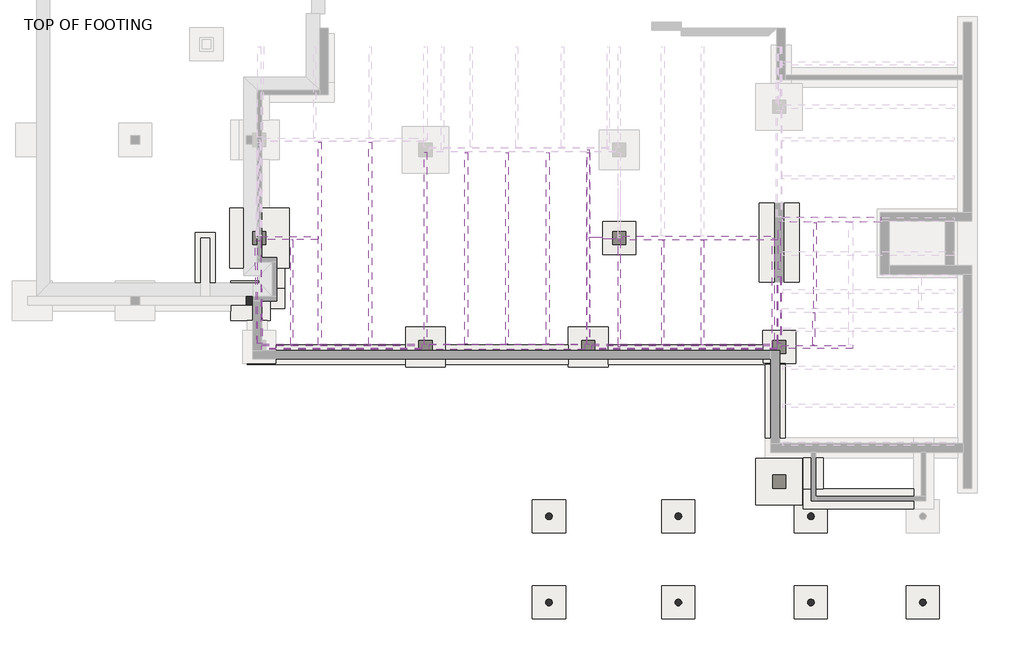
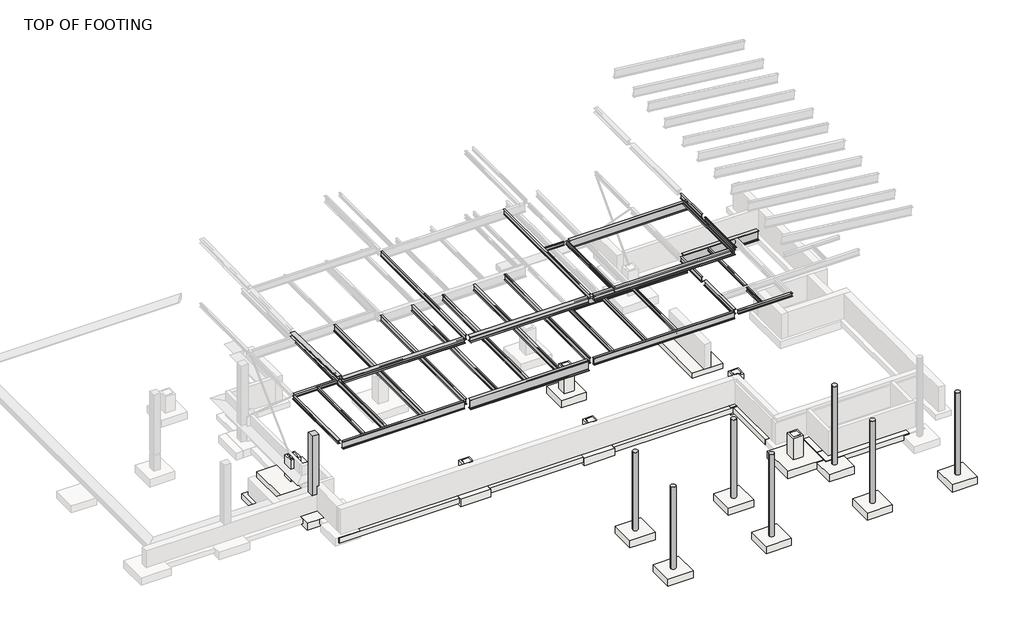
# One storey, part 2 of 4: 35 beams, 14 slabs, 8 columns, 8 footings.
"""IFC4 building model written with IfcOpenShell, lengths in millimetres."""

from ifc_helpers import new_model, si_unit, point, frame, frame_2d, origin, place, context, project, spatial, polyline, circle_curve, trimmed, segment, composite_curve, outline, extrude, faceted_brep, transform, mapped, element, save
from components import w_wide_flange_w10x12_ebacd2cb, w_wide_flange_w10x12_1bd4f99f, w_wide_flange_w10x49_96518129, w_wide_flange_w10x49_8d358260, w_wide_flange_w12x16_59da3857, w_wide_flange_w12x16_ddd03c39, w_wide_flange_w12x19_d63bb9e0, w_wide_flange_w12x30_b48d1e93, w_wide_flange_w12x53_96ffc1ec, w_wide_flange_w14x22_2e51511a, w_wide_flange_w14x22_2ac3afcd, w_wide_flange_w14x22_ec72dc32, w_wide_flange_w14x22_4ceff1ba, w_wide_flange_w14x61_86819d2a, w_wide_flange_w16x26_70125ba5, w_wide_flange_w16x31_951fd6ce, w_wide_flange_w18x46_b0132ec0, w_wide_flange_w21x44_84bfd685, w_wide_flange_w24x84_4409fa3f, w_wide_flange_w24x84_e470d529, w_wide_flange_w8x10_f623109c, w_wide_flange_w8x10_84c81e36, w_wide_flange_w8x10_45ce977e, w_wide_flange_w8x10_993dd0ac, w_wide_flange_w8x10_f96a4068, w_wide_flange_w8x10_8db334b5, w_wide_flange_w8x10_4803d970, w_wide_flange_w8x18_17d6e70c, w_wide_flange_w8x18_5f46299d, w_wide_flange_w8x18_c4c3ec7c, slab_df1ede25, footing_rectangular_with_pier_95157401

model = new_model("IFC4")

# Units and contexts
model_context = context("Model", 3, world=origin())
ifc_project = project(units=[si_unit("LENGTHUNIT", "METRE", prefix="MILLI")], contexts=[model_context])

# Site, building, storey
site = spatial("IfcSite", under=ifc_project)
building = spatial("IfcBuilding", under=site)
storey = spatial("IfcBuildingStorey", under=building, Name="TOP OF FOOTING", Elevation=28905.2)

# Beams
placement = place(None, origin())
w_wide_flange_w10x12_shape = w_wide_flange_w10x12_ebacd2cb(model_context)
element("IfcBeam", 1, ObjectType="W-Wide Flange : W10X12", at=placement, inside=storey, context=model_context, shape_type="MappedRepresentation", body=[
    mapped(w_wide_flange_w10x12_shape, transform((6216.0170393, -4439.2429995, 34253.551), x_axis=(0.0, -1.0, 0.0), y_axis=(1.0, 0.0, 0.0), z_axis=(0.0, 0.0, 1.0))),
])
w_wide_flange_w10x12_2_shape = w_wide_flange_w10x12_1bd4f99f(model_context)
element("IfcBeam", 2, ObjectType="W-Wide Flange : W10X12", at=placement, inside=storey, context=model_context, shape_type="MappedRepresentation", body=[
    mapped(w_wide_flange_w10x12_2_shape, transform((8209.3878726, -4439.2429995, 34253.551), x_axis=(0.0, -1.0, 0.0), y_axis=(1.0, 0.0, 0.0), z_axis=(0.0, 0.0, 1.0))),
])
element("IfcBeam", 3, ObjectType="W-Wide Flange : W10X12", at=placement, inside=storey, context=model_context, shape_type="MappedRepresentation", body=[
    mapped(w_wide_flange_w10x12_2_shape, transform((10037.658706, -4439.2429995, 34253.551), x_axis=(0.0, -1.0, 0.0), y_axis=(1.0, 0.0, 0.0), z_axis=(0.0, 0.0, 1.0))),
])
w_wide_flange_w10x49_shape = w_wide_flange_w10x49_96518129(model_context)
element("IfcBeam", 4, ObjectType="W-Wide Flange : W10X49", at=placement, inside=storey, context=model_context, shape_type="MappedRepresentation", body=[
    mapped(w_wide_flange_w10x49_shape, transform((-6564.9454607, -6942.7304995, 38277.8), x_axis=(1.0, 0.0, 0.0), y_axis=(0.0, 1.0, 0.0), z_axis=(0.0, 0.0, 1.0))),
])
w_wide_flange_w10x49_2_shape = w_wide_flange_w10x49_8d358260(model_context)
element("IfcBeam", 5, ObjectType="W-Wide Flange : W10X49", at=placement, inside=storey, context=model_context, shape_type="MappedRepresentation", body=[
    mapped(w_wide_flange_w10x49_2_shape, transform((-10353.3115157, -4435.9636409, 38341.3), x_axis=(-0.01923994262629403, 0.9998148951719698, 0.0), y_axis=(-0.9998148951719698, -0.01923994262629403, 0.0), z_axis=(0.0, 0.0, 1.0))),
])
w_wide_flange_w12x16_shape = w_wide_flange_w12x16_59da3857(model_context)
element("IfcBeam", 6, ObjectType="W-Wide Flange : W12X16", at=placement, inside=storey, context=model_context, shape_type="MappedRepresentation", body=[
    mapped(w_wide_flange_w12x16_shape, transform((13567.7295393, -2311.9929995, 38252.4), x_axis=(0.0, 1.0, 0.0), y_axis=(-1.0, 0.0, 0.0), z_axis=(0.0, 0.0, 1.0))),
])
element("IfcBeam", 7, ObjectType="W-Wide Flange : W12X16", at=placement, inside=storey, context=model_context, shape_type="MappedRepresentation", body=[
    mapped(w_wide_flange_w12x16_shape, transform((13567.7295393, -2311.9929995, 34226.5), x_axis=(0.0, 1.0, 0.0), y_axis=(-1.0, 0.0, 0.0), z_axis=(0.0, 0.0, 1.0))),
])
w_wide_flange_w12x16_2_shape = w_wide_flange_w12x16_ddd03c39(model_context)
element("IfcBeam", 8, ObjectType="W-Wide Flange : W12X16", at=placement, inside=storey, context=model_context, shape_type="MappedRepresentation", body=[
    mapped(w_wide_flange_w12x16_2_shape, transform((-2689.8579607, -2446.9304995, 38315.9), x_axis=(0.0, 1.0, 0.0), y_axis=(-1.0, 0.0, 0.0), z_axis=(0.0, 0.0, 1.0))),
])
w_wide_flange_w12x19_shape = w_wide_flange_w12x19_d63bb9e0(model_context)
element("IfcBeam", 9, ObjectType="W-Wide Flange : W12X19", at=placement, inside=storey, context=model_context, shape_type="MappedRepresentation", body=[
    mapped(w_wide_flange_w12x19_shape, transform((4795.2045393, -2446.9304995, 38313.36), x_axis=(0.0, 1.0, 0.0), y_axis=(-1.0, 0.0, 0.0), z_axis=(0.0, 0.0, 1.0))),
])
w_wide_flange_w12x30_shape = w_wide_flange_w12x30_b48d1e93(model_context)
element("IfcBeam", 10, ObjectType="W-Wide Flange : W12X30", at=placement, inside=storey, context=model_context, shape_type="MappedRepresentation", body=[
    mapped(w_wide_flange_w12x30_shape, transform((13567.7295393, -5240.9304995, 34222.69), x_axis=(0.0, 1.0, 0.0), y_axis=(-1.0, 0.0, 0.0), z_axis=(0.0, 0.0, 1.0))),
])
w_wide_flange_w12x53_shape = w_wide_flange_w12x53_96ffc1ec(model_context)
element("IfcBeam", 11, ObjectType="W-Wide Flange : W12X53", at=placement, inside=storey, context=model_context, shape_type="MappedRepresentation", body=[
    mapped(w_wide_flange_w12x53_shape, transform((9181.4670393, -6942.7304995, 38251.13), x_axis=(1.0, 0.0, 0.0), y_axis=(0.0, 1.0, 0.0), z_axis=(0.0, 0.0, 1.0))),
])
w_wide_flange_w14x22_shape = w_wide_flange_w14x22_2e51511a(model_context)
element("IfcBeam", 12, ObjectType="W-Wide Flange : W14X22", at=placement, inside=storey, context=model_context, shape_type="MappedRepresentation", body=[
    mapped(w_wide_flange_w14x22_shape, transform((-7549.1954607, -2180.2304995, 34204.91), x_axis=(0.0, 1.0, 0.0), y_axis=(-1.0, 0.0, 0.0), z_axis=(0.0, 0.0, 1.0))),
])
w_wide_flange_w14x22_2_shape = w_wide_flange_w14x22_2ac3afcd(model_context)
element("IfcBeam", 13, ObjectType="W-Wide Flange : W14X22", at=placement, inside=storey, context=model_context, shape_type="MappedRepresentation", body=[
    mapped(w_wide_flange_w14x22_2_shape, transform((-2689.8579607, -2446.9304995, 34204.91), x_axis=(0.0, 1.0, 0.0), y_axis=(-1.0, 0.0, 0.0), z_axis=(0.0, 0.0, 1.0))),
])
w_wide_flange_w14x22_3_shape = w_wide_flange_w14x22_ec72dc32(model_context)
element("IfcBeam", 14, ObjectType="W-Wide Flange : W14X22", at=placement, inside=storey, context=model_context, shape_type="MappedRepresentation", body=[
    mapped(w_wide_flange_w14x22_3_shape, transform((-818.5923357, -2408.8304995, 34204.91), x_axis=(0.0, 1.0, 0.0), y_axis=(-1.0, 0.0, 0.0), z_axis=(0.0, 0.0, 1.0))),
])
element("IfcBeam", 15, ObjectType="W-Wide Flange : W14X22", at=placement, inside=storey, context=model_context, shape_type="MappedRepresentation", body=[
    mapped(w_wide_flange_w14x22_3_shape, transform((1052.6732893, -2408.8304995, 34204.91), x_axis=(0.0, 1.0, 0.0), y_axis=(-1.0, 0.0, 0.0), z_axis=(0.0, 0.0, 1.0))),
])
element("IfcBeam", 16, ObjectType="W-Wide Flange : W14X22", at=placement, inside=storey, context=model_context, shape_type="MappedRepresentation", body=[
    mapped(w_wide_flange_w14x22_3_shape, transform((2923.9389143, -2408.8304995, 34204.91), x_axis=(0.0, 1.0, 0.0), y_axis=(-1.0, 0.0, 0.0), z_axis=(0.0, 0.0, 1.0))),
])
w_wide_flange_w14x22_4_shape = w_wide_flange_w14x22_4ceff1ba(model_context)
element("IfcBeam", 17, ObjectType="W-Wide Flange : W14X22", at=placement, inside=storey, context=model_context, shape_type="MappedRepresentation", body=[
    mapped(w_wide_flange_w14x22_4_shape, transform((4795.2045393, -2446.9304995, 34204.91), x_axis=(0.0, 1.0, 0.0), y_axis=(-1.0, 0.0, 0.0), z_axis=(0.0, 0.0, 1.0))),
])
w_wide_flange_w14x61_shape = w_wide_flange_w14x61_86819d2a(model_context)
element("IfcBeam", 18, ObjectType="W-Wide Flange : W14X61", at=placement, inside=storey, context=model_context, shape_type="MappedRepresentation", body=[
    mapped(w_wide_flange_w14x61_shape, transform((985.2045393, -6942.7304995, 38228.27), x_axis=(1.0, 0.0, 0.0), y_axis=(0.0, 1.0, 0.0), z_axis=(0.0, 0.0, 1.0))),
])
w_wide_flange_w16x26_shape = w_wide_flange_w16x26_70125ba5(model_context)
element("IfcBeam", 19, ObjectType="W-Wide Flange : W16X26", at=placement, inside=storey, context=model_context, shape_type="MappedRepresentation", body=[
    mapped(w_wide_flange_w16x26_shape, transform((-5228.2704607, -2180.2304995, 34179.51), x_axis=(0.0, 1.0, 0.0), y_axis=(-1.0, 0.0, 0.0), z_axis=(0.0, 0.0, 1.0))),
])
w_wide_flange_w16x31_shape = w_wide_flange_w16x31_951fd6ce(model_context)
element("IfcBeam", 20, ObjectType="W-Wide Flange : W16X31", at=placement, inside=storey, context=model_context, shape_type="MappedRepresentation", body=[
    mapped(w_wide_flange_w16x31_shape, transform((9181.4670393, -6942.7304995, 34176.97), x_axis=(1.0, 0.0, 0.0), y_axis=(0.0, 1.0, 0.0), z_axis=(0.0, 0.0, 1.0))),
])
w_wide_flange_w18x46_shape = w_wide_flange_w18x46_b0132ec0(model_context)
element("IfcBeam", 21, ObjectType="W-Wide Flange : W18X46", at=placement, inside=storey, context=model_context, shape_type="MappedRepresentation", body=[
    mapped(w_wide_flange_w18x46_shape, transform((-6564.9454607, -6942.7304995, 34149.03), x_axis=(1.0, 0.0, 0.0), y_axis=(0.0, 1.0, 0.0), z_axis=(0.0, 0.0, 1.0))),
])
w_wide_flange_w21x44_shape = w_wide_flange_w21x44_84bfd685(model_context)
element("IfcBeam", 22, ObjectType="W-Wide Flange : W21X44", at=placement, inside=storey, context=model_context, shape_type="MappedRepresentation", body=[
    mapped(w_wide_flange_w21x44_shape, transform((9891.8732893, -1935.7554995, 34116.01), x_axis=(1.0, 0.0, 0.0), y_axis=(0.0, 1.0, 0.0), z_axis=(0.0, 0.0, 1.0))),
])
element("IfcBeam", 23, ObjectType="W-Wide Flange : W21X44", at=placement, inside=storey, context=model_context, shape_type="MappedRepresentation", body=[
    mapped(w_wide_flange_w21x44_shape, transform((9891.8732893, -1935.7554995, 38141.91), x_axis=(1.0, 0.0, 0.0), y_axis=(0.0, 1.0, 0.0), z_axis=(0.0, 0.0, 1.0))),
])
w_wide_flange_w24x84_shape = w_wide_flange_w24x84_4409fa3f(model_context)
element("IfcBeam", 24, ObjectType="W-Wide Flange : W24X84", at=placement, inside=storey, context=model_context, shape_type="MappedRepresentation", body=[
    mapped(w_wide_flange_w24x84_shape, transform((15995.3891096, -1084.8554995, 34072.83), x_axis=(1.0, 0.0, 0.0), y_axis=(0.0, 1.0, 0.0), z_axis=(0.0, 0.0, 1.0))),
])
w_wide_flange_w24x84_2_shape = w_wide_flange_w24x84_e470d529(model_context)
element("IfcBeam", 25, ObjectType="W-Wide Flange : W24X84", at=placement, inside=storey, context=model_context, shape_type="MappedRepresentation", body=[
    mapped(w_wide_flange_w24x84_2_shape, transform((985.2045393, -6942.7304995, 34072.83), x_axis=(1.0, 0.0, 0.0), y_axis=(0.0, 1.0, 0.0), z_axis=(0.0, 0.0, 1.0))),
])
w_wide_flange_w8x10_shape = w_wide_flange_w8x10_f623109c(model_context)
element("IfcBeam", 26, ObjectType="W-Wide Flange : W8X10", at=placement, inside=storey, context=model_context, shape_type="MappedRepresentation", body=[
    mapped(w_wide_flange_w8x10_shape, transform((13567.7295393, -5240.9304995, 38304.597), x_axis=(0.0, 1.0, 0.0), y_axis=(-1.0, 0.0, 0.0), z_axis=(0.0, 0.0, 1.0))),
])
w_wide_flange_w8x10_2_shape = w_wide_flange_w8x10_84c81e36(model_context)
element("IfcBeam", 27, ObjectType="W-Wide Flange : W8X10", at=placement, inside=storey, context=model_context, shape_type="MappedRepresentation", body=[
    mapped(w_wide_flange_w8x10_2_shape, transform((-8844.5954607, -4439.2429995, 34278.697), x_axis=(0.0, 1.0, 0.0), y_axis=(-1.0, 0.0, 0.0), z_axis=(0.0, 0.0, 1.0))),
])
w_wide_flange_w8x10_3_shape = w_wide_flange_w8x10_45ce977e(model_context)
element("IfcBeam", 28, ObjectType="W-Wide Flange : W8X10", at=placement, inside=storey, context=model_context, shape_type="MappedRepresentation", body=[
    mapped(w_wide_flange_w8x10_3_shape, transform((13297.8545393, -4477.3429995, 38368.097), x_axis=(0.0, 1.0, 0.0), y_axis=(-1.0, 0.0, 0.0), z_axis=(0.0, 0.0, 1.0))),
])
w_wide_flange_w8x10_4_shape = w_wide_flange_w8x10_993dd0ac(model_context)
element("IfcBeam", 29, ObjectType="W-Wide Flange : W8X10", at=placement, inside=storey, context=model_context, shape_type="MappedRepresentation", body=[
    mapped(w_wide_flange_w8x10_4_shape, transform((15158.4045393, -6104.5304995, 34278.697), x_axis=(0.0, 1.0, 0.0), y_axis=(-1.0, 0.0, 0.0), z_axis=(0.0, 0.0, 1.0))),
])
w_wide_flange_w8x10_5_shape = w_wide_flange_w8x10_f96a4068(model_context)
element("IfcBeam", 30, ObjectType="W-Wide Flange : W8X10", at=placement, inside=storey, context=model_context, shape_type="MappedRepresentation", body=[
    mapped(w_wide_flange_w8x10_5_shape, transform((15213.9670393, -3175.5929995, 34278.697), x_axis=(0.0, 1.0, 0.0), y_axis=(-1.0, 0.0, 0.0), z_axis=(0.0, 0.0, 1.0))),
])
w_wide_flange_w8x10_6_shape = w_wide_flange_w8x10_8db334b5(model_context)
element("IfcBeam", 31, ObjectType="W-Wide Flange : W8X10", at=placement, inside=storey, context=model_context, shape_type="MappedRepresentation", body=[
    mapped(w_wide_flange_w8x10_6_shape, transform((5497.893765, -1935.7554995, 38304.597), x_axis=(-1.0, 0.0, 0.0), y_axis=(0.0, -1.0, 0.0), z_axis=(0.0, 0.0, 1.0))),
])
w_wide_flange_w8x10_7_shape = w_wide_flange_w8x10_4803d970(model_context)
element("IfcBeam", 32, ObjectType="W-Wide Flange : W8X10", at=placement, inside=storey, context=model_context, shape_type="MappedRepresentation", body=[
    mapped(w_wide_flange_w8x10_7_shape, transform((6216.0170393, -4439.2429995, 38304.597), x_axis=(0.0, -1.0, 0.0), y_axis=(1.0, 0.0, 0.0), z_axis=(0.0, 0.0, 1.0))),
])
w_wide_flange_w8x18_shape = w_wide_flange_w8x18_17d6e70c(model_context)
element("IfcBeam", 33, ObjectType="W-Wide Flange : W8X18", at=placement, inside=storey, context=model_context, shape_type="MappedRepresentation", body=[
    mapped(w_wide_flange_w8x18_shape, transform((-8938.2579607, -1935.7554995, 34275.522), x_axis=(1.0, 0.0, 0.0), y_axis=(0.0, 1.0, 0.0), z_axis=(0.0, 0.0, 1.0))),
])
w_wide_flange_w8x18_2_shape = w_wide_flange_w8x18_5f46299d(model_context)
element("IfcBeam", 34, ObjectType="W-Wide Flange : W8X18", at=placement, inside=storey, context=model_context, shape_type="MappedRepresentation", body=[
    mapped(w_wide_flange_w8x18_2_shape, transform((-10327.3204607, -4437.8823673, 34275.522), x_axis=(0.0, -1.0, 0.0), y_axis=(1.0, 0.0, 0.0), z_axis=(0.0, 0.0, 1.0))),
])
w_wide_flange_w8x18_3_shape = w_wide_flange_w8x18_c4c3ec7c(model_context)
element("IfcBeam", 35, ObjectType="W-Wide Flange : W8X18", at=placement, inside=storey, context=model_context, shape_type="MappedRepresentation", body=[
    mapped(w_wide_flange_w8x18_3_shape, transform((15213.9670393, -6942.7304995, 34275.522), x_axis=(1.0, 0.0, 0.0), y_axis=(0.0, 1.0, 0.0), z_axis=(0.0, 0.0, 1.0))),
])

# Columns
element("IfcColumn", 36, ObjectType="Concrete-Rectangular-Column : 16 x 16", at=placement, inside=storey, context=model_context, shape_type="Brep", body=[
    faceted_brep([(-10529.7763201, -4618.6304995, 33782.0), (-10529.7763201, -5025.0304995, 33782.0), (-10529.7763201, -5025.0304995, 30480.0), (-10529.7763201, -4618.6304995, 30480.0), (-10936.1763201, -5025.0304995, 33782.0), (-10936.1763201, -5025.0304995, 29972.0), (-10632.1204607, -5025.0304995, 29972.0), (-10632.1204607, -5025.0304995, 30480.0), (-10936.1763201, -4618.6304995, 33782.0), (-10936.1763201, -4618.6304995, 29972.0), (-10632.1204607, -4618.6304995, 30480.0), (-10632.1204607, -4618.6304995, 29972.0), (-10632.1204607, -4821.8304995, 30480.0)], [[[0, 1, 2, 3]], [[1, 4, 5, 6, 7, 2]], [[4, 8, 9, 5]], [[8, 0, 3, 10, 11, 9]], [[1, 0, 8, 4]], [[11, 6, 5, 9]], [[7, 6, 11, 10, 12]], [[7, 12, 10, 3, 2]]]),
])
element("IfcColumn", 37, ObjectType="Concrete-Round-Column1 : 12\"", at=placement, inside=storey, context=model_context, shape_type="SweptSolid", body=[
    extrude(outline(composite_curve([segment(trimmed(circle_curve(frame_2d((15024.5462086, -14731.7497924)), 152.4), [point((14872.1462086, -14731.7497924))], [point((15176.9462086, -14731.7497924))], False, "CARTESIAN"), True, "CONTINUOUS"), segment(trimmed(circle_curve(frame_2d((15024.5462086, -14731.7497924)), 152.4), [point((15176.9462086, -14731.7497924))], [point((14872.1462086, -14731.7497924))], False, "CARTESIAN"), True, "CONTINUOUS")], self_intersect=False)), frame((0.0, 0.0, 28854.4), z_axis=(0.0, 0.0, 1.0), x_axis=(1.0, 0.0, 0.0)), (0.0, 0.0, 1.0), 5003.8),
])
element("IfcColumn", 38, ObjectType="Concrete-Round-Column1 : 12\"", at=placement, inside=storey, context=model_context, shape_type="SweptSolid", body=[
    extrude(outline(composite_curve([segment(trimmed(circle_curve(frame_2d((8928.5462086, -14731.7497924)), 152.4), [point((8776.1462086, -14731.7497924))], [point((9080.9462086, -14731.7497924))], False, "CARTESIAN"), True, "CONTINUOUS"), segment(trimmed(circle_curve(frame_2d((8928.5462086, -14731.7497924)), 152.4), [point((9080.9462086, -14731.7497924))], [point((8776.1462086, -14731.7497924))], False, "CARTESIAN"), True, "CONTINUOUS")], self_intersect=False)), frame((0.0, 0.0, 28854.4), z_axis=(0.0, 0.0, 1.0), x_axis=(1.0, 0.0, 0.0)), (0.0, 0.0, 1.0), 5003.8),
])
element("IfcColumn", 39, ObjectType="Concrete-Round-Column1 : 12\"", at=placement, inside=storey, context=model_context, shape_type="SweptSolid", body=[
    extrude(outline(composite_curve([segment(trimmed(circle_curve(frame_2d((2984.9462086, -14731.7497924)), 152.4), [point((2832.5462086, -14731.7497924))], [point((3137.3462086, -14731.7497924))], False, "CARTESIAN"), True, "CONTINUOUS"), segment(trimmed(circle_curve(frame_2d((2984.9462086, -14731.7497924)), 152.4), [point((3137.3462086, -14731.7497924))], [point((2832.5462086, -14731.7497924))], False, "CARTESIAN"), True, "CONTINUOUS")], self_intersect=False)), frame((0.0, 0.0, 28854.4), z_axis=(0.0, 0.0, 1.0), x_axis=(1.0, 0.0, 0.0)), (0.0, 0.0, 1.0), 5003.8),
])
element("IfcColumn", 40, ObjectType="Concrete-Round-Column1 : 12\"", at=placement, inside=storey, context=model_context, shape_type="SweptSolid", body=[
    extrude(outline(composite_curve([segment(trimmed(circle_curve(frame_2d((20168.0462086, -18694.1497924)), 152.4), [point((20015.6462086, -18694.1497924))], [point((20320.4462086, -18694.1497924))], False, "CARTESIAN"), True, "CONTINUOUS"), segment(trimmed(circle_curve(frame_2d((20168.0462086, -18694.1497924)), 152.4), [point((20320.4462086, -18694.1497924))], [point((20015.6462086, -18694.1497924))], False, "CARTESIAN"), True, "CONTINUOUS")], self_intersect=False)), frame((0.0, 0.0, 28803.6), z_axis=(0.0, 0.0, 1.0), x_axis=(1.0, 0.0, 0.0)), (0.0, 0.0, 1.0), 5232.4),
])
element("IfcColumn", 41, ObjectType="Concrete-Round-Column1 : 12\"", at=placement, inside=storey, context=model_context, shape_type="SweptSolid", body=[
    extrude(outline(composite_curve([segment(trimmed(circle_curve(frame_2d((15024.5462086, -18694.1497924)), 152.4), [point((14872.1462086, -18694.1497924))], [point((15176.9462086, -18694.1497924))], False, "CARTESIAN"), True, "CONTINUOUS"), segment(trimmed(circle_curve(frame_2d((15024.5462086, -18694.1497924)), 152.4), [point((15176.9462086, -18694.1497924))], [point((14872.1462086, -18694.1497924))], False, "CARTESIAN"), True, "CONTINUOUS")], self_intersect=False)), frame((0.0, 0.0, 28803.6), z_axis=(0.0, 0.0, 1.0), x_axis=(1.0, 0.0, 0.0)), (0.0, 0.0, 1.0), 5232.4),
])
element("IfcColumn", 42, ObjectType="Concrete-Round-Column1 : 12\"", at=placement, inside=storey, context=model_context, shape_type="SweptSolid", body=[
    extrude(outline(composite_curve([segment(trimmed(circle_curve(frame_2d((8928.5462086, -18694.1497924)), 152.4), [point((8776.1462086, -18694.1497924))], [point((9080.9462086, -18694.1497924))], False, "CARTESIAN"), True, "CONTINUOUS"), segment(trimmed(circle_curve(frame_2d((8928.5462086, -18694.1497924)), 152.4), [point((9080.9462086, -18694.1497924))], [point((8776.1462086, -18694.1497924))], False, "CARTESIAN"), True, "CONTINUOUS")], self_intersect=False)), frame((0.0, 0.0, 28803.6), z_axis=(0.0, 0.0, 1.0), x_axis=(1.0, 0.0, 0.0)), (0.0, 0.0, 1.0), 5232.4),
])
element("IfcColumn", 43, ObjectType="Concrete-Round-Column1 : 12\"", at=placement, inside=storey, context=model_context, shape_type="SweptSolid", body=[
    extrude(outline(composite_curve([segment(trimmed(circle_curve(frame_2d((2984.9462086, -18694.1497924)), 152.4), [point((2832.5462086, -18694.1497924))], [point((3137.3462086, -18694.1497924))], False, "CARTESIAN"), True, "CONTINUOUS"), segment(trimmed(circle_curve(frame_2d((2984.9462086, -18694.1497924)), 152.4), [point((3137.3462086, -18694.1497924))], [point((2832.5462086, -18694.1497924))], False, "CARTESIAN"), True, "CONTINUOUS")], self_intersect=False)), frame((0.0, 0.0, 28803.6), z_axis=(0.0, 0.0, 1.0), x_axis=(1.0, 0.0, 0.0)), (0.0, 0.0, 1.0), 5232.4),
])

# Footings
element("IfcFooting", 44, ObjectType="Bearing Footing - 36\" x 12\"", at=placement, inside=storey, context=model_context, shape_type="Brep", body=[
    faceted_brep([(14682.1545393, -14384.9304995, 28905.2), (19749.4545393, -14384.9304995, 28905.2), (19749.4545393, -13470.5304995, 28905.2), (15596.5545393, -13470.5304995, 28905.2), (14682.1545393, -13470.5304995, 28905.2), (19749.4545393, -13470.5304995, 28600.4), (15596.5545393, -13470.5304995, 28600.4), (14682.1545393, -13470.5304995, 28600.4), (19749.4545393, -13969.7497924, 28600.4), (19406.0462086, -13969.7497924, 28600.4), (19406.0462086, -14384.9304995, 28600.4), (15786.5462086, -14384.9304995, 28600.4), (15786.5462086, -13969.7497924, 28600.4), (14682.1545393, -13969.7497924, 28600.4), (14682.1545393, -14384.9304995, 28854.4), (15786.5462086, -14384.9304995, 28854.4), (19406.0462086, -14384.9304995, 28854.4), (19749.4545393, -14384.9304995, 28854.4), (19749.4545393, -13969.7497924, 28854.4), (14682.1545393, -13969.7497924, 28854.4), (15786.5462086, -13969.7497924, 28854.4), (19406.0462086, -13969.7497924, 28854.4)], [[[0, 1, 2, 3, 4]], [[4, 3, 2, 5, 6, 7]], [[7, 6, 5, 8, 9, 10, 11, 12, 13]], [[1, 0, 14, 15, 11, 10, 16, 17]], [[2, 1, 17, 18, 8, 5]], [[0, 4, 7, 13, 19, 14]], [[20, 15, 14, 19]], [[12, 20, 19, 13]], [[15, 20, 12, 11]], [[16, 21, 18, 17]], [[18, 21, 9, 8]], [[21, 16, 10, 9]]]),
])
element("IfcFooting", 45, ObjectType="Bearing Footing - 36\" x 12\"", at=placement, inside=storey, context=model_context, shape_type="Brep", body=[
    faceted_brep([(-9565.3204607, -7704.7304995, 28905.2), (-10886.1204607, -7704.7304995, 28905.2), (-10886.1204607, -7755.5304995, 28905.2), (-3604.2579607, -7755.5304995, 28905.2), (-3604.2579607, -6841.1304995, 28905.2), (-9565.3204607, -6841.1304995, 28905.2), (-10886.1204607, -7755.5304995, 28600.4), (-3604.2579607, -7755.5304995, 28600.4), (-10886.1204607, -7704.7304995, 28600.4), (-9565.3204607, -7704.7304995, 28600.4), (-9565.3204607, -6841.1304995, 28600.4), (-3604.2579607, -6841.1304995, 28600.4)], [[[0, 1, 2, 3, 4, 5]], [[2, 6, 7, 3]], [[7, 6, 8, 9, 10, 11]], [[10, 5, 4, 11]], [[0, 9, 8, 1]], [[9, 0, 5, 10]], [[6, 2, 1, 8]], [[4, 3, 7, 11]]]),
    faceted_brep([(12805.7295393, -7704.7304995, 28905.2), (12805.7295393, -6841.1304995, 28905.2), (5709.6045393, -6841.1304995, 28905.2), (5709.6045393, -7755.5304995, 28905.2), (12923.2045393, -7755.5304995, 28905.2), (13837.6045393, -7755.5304995, 28905.2), (13837.6045393, -7704.7304995, 28905.2), (13837.6045393, -7755.5304995, 28600.4), (5709.6045393, -7755.5304995, 28600.4), (12923.2045393, -7755.5304995, 28600.4), (13837.6045393, -7704.7304995, 28600.4), (5709.6045393, -6841.1304995, 28600.4), (12805.7295393, -6841.1304995, 28600.4), (12805.7295393, -7704.7304995, 28600.4)], [[[0, 1, 2, 3, 4, 5, 6]], [[7, 5, 4, 3, 8, 9]], [[10, 7, 9, 8, 11, 12, 13]], [[1, 12, 11, 2]], [[0, 13, 12, 1]], [[13, 0, 6, 10]], [[5, 7, 10, 6]], [[3, 2, 11, 8]]]),
    faceted_brep([(-1775.4579607, -6841.1304995, 28905.2), (-1775.4579607, -7755.5304995, 28905.2), (3880.8045393, -7755.5304995, 28905.2), (3880.8045393, -6841.1304995, 28905.2), (-1775.4579607, -7755.5304995, 28600.4), (3880.8045393, -7755.5304995, 28600.4), (-1775.4579607, -6841.1304995, 28600.4), (3880.8045393, -6841.1304995, 28600.4)], [[[0, 1, 2, 3]], [[1, 4, 5, 2]], [[4, 6, 7, 5]], [[6, 0, 3, 7]], [[1, 0, 6, 4]], [[3, 2, 5, 7]]]),
])
element("IfcFooting", 46, ObjectType="Bearing Footing - 36\" x 12\"", at=placement, inside=storey, context=model_context, shape_type="SweptSolid", body=[
    extrude(outline(polyline([(14682.1545393, -12041.7804995), (15596.5545393, -12041.7804995), (15596.5545393, -13470.5304995), (14682.1545393, -13470.5304995), (14682.1545393, -12041.7804995)])), frame((0.0, 0.0, 28600.4), z_axis=(0.0, 0.0, 1.0), x_axis=(1.0, 0.0, 0.0)), (0.0, 0.0, 1.0), 304.8),
])
element("IfcFooting", 47, ObjectType="Bearing Footing - 36\" x 12\"", at=placement, inside=storey, context=model_context, shape_type="SweptSolid", body=[
    extrude(outline(polyline([(12923.2045393, -7755.5304995), (13837.6045393, -7755.5304995), (13837.6045393, -11127.3804995), (12923.2045393, -11127.3804995), (12923.2045393, -7755.5304995)])), frame((0.0, 0.0, 28600.4), z_axis=(0.0, 0.0, 1.0), x_axis=(1.0, 0.0, 0.0)), (0.0, 0.0, 1.0), 304.8),
])
element("IfcFooting", 48, ObjectType="Bearing Footing - 36\" x 12\"", at=placement, inside=storey, context=model_context, shape_type="SweptSolid", body=[
    extrude(outline(polyline([(-12354.5579607, -4364.6304995), (-13268.9579607, -4364.6304995), (-13268.9579607, -1681.7554995), (-12354.5579607, -1681.7554995), (-12354.5579607, -4364.6304995)])), frame((0.0, 0.0, 28600.4), z_axis=(0.0, 0.0, 1.0), x_axis=(1.0, 0.0, 0.0)), (0.0, 0.0, 1.0), 304.8),
])
element("IfcFooting", 49, ObjectType="Bearing Footing - 36\" x 12\"", at=placement, inside=storey, context=model_context, shape_type="SweptSolid", body=[
    extrude(outline(polyline([(-9168.4454607, -4263.0304995), (-9168.4454607, -5177.4304995), (-9818.5763201, -5177.4304995), (-9818.5763201, -4263.0304995), (-9168.4454607, -4263.0304995)])), frame((0.0, 0.0, 28600.4), z_axis=(0.0, 0.0, 1.0), x_axis=(1.0, 0.0, 0.0)), (0.0, 0.0, 1.0), 304.8),
])
element("IfcFooting", 50, ObjectType="Bearing Footing - 36\" x 12\"", at=placement, inside=storey, context=model_context, shape_type="Brep", body=[
    faceted_brep([(-10082.8454607, -3907.4304995, 28905.2), (-9818.5763201, -3907.4304995, 28905.2), (-9818.5763201, -4263.0304995, 28905.2), (-9168.4454607, -4263.0304995, 28905.2), (-9168.4454607, -3307.3554995, 28905.2), (-9870.1204607, -3307.3554995, 28905.2), (-9870.1204607, -3396.2554995, 28905.2), (-10082.8454607, -3396.2554995, 28905.2), (-9168.4454607, -3307.3554995, 28625.8), (-9168.4454607, -4263.0304995, 28600.4), (-9168.4454607, -2481.8554995, 28600.4), (-9168.4454607, -2481.8554995, 28625.8), (-9818.5763201, -3907.4304995, 28600.4), (-10082.8454607, -3907.4304995, 28600.4), (-10082.8454607, -3396.2554995, 28600.4), (-9870.1204607, -3396.2554995, 28600.4), (-9870.1204607, -2481.8554995, 28600.4), (-9818.5763201, -4263.0304995, 28600.4), (-9870.1204607, -3307.3554995, 28625.8), (-9870.1204607, -2481.8554995, 28625.8)], [[[0, 1, 2, 3, 4, 5, 6, 7]], [[8, 4, 3, 9, 10, 11]], [[12, 13, 14, 15, 16, 10, 9, 17]], [[13, 0, 7, 14]], [[4, 8, 18, 5]], [[12, 1, 0, 13]], [[1, 12, 17, 2]], [[3, 2, 17, 9]], [[11, 10, 16, 19]], [[15, 6, 5, 18, 19, 16]], [[6, 15, 14, 7]], [[8, 11, 19, 18]]]),
])
element("IfcFooting", 51, ObjectType="Bearing Footing - 72\" x 12\" 2", at=placement, inside=storey, context=model_context, shape_type="SweptSolid", body=[
    extrude(outline(polyline([(12653.3295393, -326.0304995), (14482.1295393, -326.0304995), (14482.1295393, -3958.2304995), (12653.3295393, -3958.2304995), (12653.3295393, -326.0304995)])), frame((0.0, 0.0, 28600.4), z_axis=(0.0, 0.0, 1.0), x_axis=(1.0, 0.0, 0.0)), (0.0, 0.0, 1.0), 304.8),
])

# Slabs
element("IfcSlab", 52, ObjectType="Footing-Rectangular : 5'-0\" x 5'-0\" x 1'-6\"", at=placement, inside=storey, context=model_context, shape_type="Brep", body=[
    faceted_brep([(14262.5462086, -15493.7497924, 28854.4), (15786.5462086, -15493.7497924, 28854.4), (15786.5462086, -14384.9304995, 28854.4), (15786.5462086, -13969.7497924, 28854.4), (14682.1545393, -13969.7497924, 28854.4), (14634.5295393, -13969.7497924, 28854.4), (14634.5295393, -14207.1801089, 28854.4), (14262.5462086, -14207.1801089, 28854.4), (15786.5462086, -13969.7497924, 28397.2), (15786.5462086, -15493.7497924, 28397.2), (14262.5462086, -15493.7497924, 28397.2), (14262.5462086, -13969.7497924, 28397.2), (14262.5462086, -13969.7497924, 28448.0), (14634.5295393, -13969.7497924, 28448.0), (15786.5462086, -13969.7497924, 28600.4), (14262.5462086, -14207.1801089, 28448.0), (14634.5295393, -14207.1801089, 28448.0)], [[[0, 1, 2, 3, 4, 5, 6, 7]], [[8, 9, 10, 11]], [[8, 11, 12, 13, 5, 4, 3, 14]], [[11, 10, 0, 7, 15, 12]], [[1, 0, 10, 9]], [[3, 2, 1, 9, 8, 14]], [[15, 16, 13, 12]], [[16, 15, 7, 6]], [[13, 16, 6, 5]]]),
])
slab_shape = slab_df1ede25(model_context)
element("IfcSlab", 53, ObjectType="Footing-Rectangular : 5'-0\" x 5'-0\" x 1'-6\"", at=placement, inside=storey, context=model_context, shape_type="MappedRepresentation", body=[
    mapped(slab_shape, transform((2984.9462086, -14731.7497924, 28854.4), x_axis=(1.0, 0.0, 0.0), y_axis=(0.0, 1.0, 0.0), z_axis=(0.0, 0.0, 1.0))),
])
element("IfcSlab", 54, ObjectType="Footing-Rectangular : 5'-0\" x 5'-0\" x 1'-6\"", at=placement, inside=storey, context=model_context, shape_type="MappedRepresentation", body=[
    mapped(slab_shape, transform((2984.9462086, -18694.1497924, 28803.6), x_axis=(1.0, 0.0, 0.0), y_axis=(0.0, 1.0, 0.0), z_axis=(0.0, 0.0, 1.0))),
])
element("IfcSlab", 55, ObjectType="Footing-Rectangular : 5'-0\" x 5'-0\" x 1'-6\"", at=placement, inside=storey, context=model_context, shape_type="MappedRepresentation", body=[
    mapped(slab_shape, transform((8928.5462086, -18694.1497924, 28803.6), x_axis=(1.0, 0.0, 0.0), y_axis=(0.0, 1.0, 0.0), z_axis=(0.0, 0.0, 1.0))),
])
element("IfcSlab", 56, ObjectType="Footing-Rectangular : 5'-0\" x 5'-0\" x 1'-6\"", at=placement, inside=storey, context=model_context, shape_type="MappedRepresentation", body=[
    mapped(slab_shape, transform((8928.5462086, -14731.7497924, 28854.4), x_axis=(1.0, 0.0, 0.0), y_axis=(0.0, 1.0, 0.0), z_axis=(0.0, 0.0, 1.0))),
])
element("IfcSlab", 57, ObjectType="Footing-Rectangular : 5'-0\" x 5'-0\" x 1'-6\"", at=placement, inside=storey, context=model_context, shape_type="MappedRepresentation", body=[
    mapped(slab_shape, transform((15024.5462086, -18694.1497924, 28803.6), x_axis=(1.0, 0.0, 0.0), y_axis=(0.0, 1.0, 0.0), z_axis=(0.0, 0.0, 1.0))),
])
element("IfcSlab", 58, ObjectType="Footing-Rectangular : 5'-0\" x 5'-0\" x 1'-6\"", at=placement, inside=storey, context=model_context, shape_type="MappedRepresentation", body=[
    mapped(slab_shape, transform((20168.0462086, -18694.1497924, 28803.6), x_axis=(1.0, 0.0, 0.0), y_axis=(0.0, 1.0, 0.0), z_axis=(0.0, 0.0, 1.0))),
])
element("IfcSlab", 59, ObjectType="Footing-Rectangular : 6'-0\" x 6'-0\" x 1'-6\"", at=placement, inside=storey, context=model_context, shape_type="Brep", body=[
    faceted_brep([(-9818.5763201, -3907.4304995, 28905.2), (-10082.8454607, -3907.4304995, 28905.2), (-11647.3763201, -3907.4304995, 28905.2), (-11647.3763201, -4364.6304995, 28905.2), (-11647.3763201, -5279.0304995, 28905.2), (-11647.3763201, -5736.2304995, 28905.2), (-10886.1204607, -5736.2304995, 28905.2), (-9971.7204607, -5736.2304995, 28905.2), (-9818.5763201, -5736.2304995, 28905.2), (-9818.5763201, -5177.4304995, 28905.2), (-9818.5763201, -4263.0304995, 28905.2), (-9818.5763201, -3907.4304995, 28448.0), (-9818.5763201, -5736.2304995, 28448.0), (-11647.3763201, -5736.2304995, 28448.0), (-11647.3763201, -3907.4304995, 28448.0), (-9818.5763201, -3907.4304995, 28600.4)], [[[0, 1, 2, 3, 4, 5, 6, 7, 8, 9, 10]], [[11, 12, 13, 14]], [[2, 1, 0, 15, 11, 14]], [[5, 4, 3, 2, 14, 13]], [[8, 7, 6, 5, 13, 12]], [[0, 10, 9, 8, 12, 11, 15]]]),
])
element("IfcSlab", 60, ObjectType="Footing-Rectangular_With_Pier : F2 - 9'-0\" x 9'-0\" x 1'-6\"", at=placement, inside=storey, context=model_context, shape_type="SolidModel", body=[
    extrude(outline(polyline([(-10022.5204607, -1630.9554995), (-10022.5204607, -2240.5554995), (-10632.1204607, -2240.5554995), (-10632.1204607, -1630.9554995), (-10022.5204607, -1630.9554995)])), frame((0.0, 0.0, 29083.0), z_axis=(0.0, 0.0, 1.0), x_axis=(1.0, 0.0, 0.0)), (0.0, 0.0, 1.0), 1371.6),
    faceted_brep([(-8955.7204607, -564.1554995, 29083.0), (-11698.9204607, -564.1554995, 29083.0), (-11698.9204607, -3307.3554995, 29083.0), (-8955.7204607, -3307.3554995, 29083.0), (-8955.7204607, -564.1554995, 28625.8), (-8955.7204607, -3307.3554995, 28625.8), (-9168.4454607, -3307.3554995, 28625.8), (-9870.1204607, -3307.3554995, 28625.8), (-10784.5204607, -3307.3554995, 28625.8), (-11698.9204607, -3307.3554995, 28625.8), (-11698.9204607, -564.1554995, 28625.8), (-10784.5204607, -564.1554995, 28625.8), (-9870.1204607, -564.1554995, 28625.8)], [[[0, 1, 2, 3]], [[4, 5, 6, 7, 8, 9, 10, 11, 12]], [[1, 0, 4, 12, 11, 10]], [[2, 1, 10, 9]], [[3, 2, 9, 8, 7, 6, 5]], [[0, 3, 5, 4]]]),
    extrude(outline(polyline([(-10124.1204607, -1732.5554995), (-10124.1204607, -2138.9554995), (-10530.5204607, -2138.9554995), (-10530.5204607, -1732.5554995), (-10124.1204607, -1732.5554995)])), frame((0.0, 0.0, 30454.6), z_axis=(0.0, 0.0, 1.0), x_axis=(1.0, 0.0, 0.0)), (0.0, 0.0, 1.0), 25.4),
])
element("IfcSlab", 61, ObjectType="Footing-Rectangular_With_Pier : F7 - 7'-0\" x 7'-0\" x 1'-6\"", at=placement, inside=storey, context=model_context, shape_type="SolidModel", body=[
    extrude(outline(polyline([(13872.5295393, -12835.5801089), (13872.5295393, -13445.1801089), (13262.9295393, -13445.1801089), (13262.9295393, -12835.5801089), (13872.5295393, -12835.5801089)])), frame((0.0, 0.0, 28905.2), z_axis=(0.0, 0.0, 1.0), x_axis=(1.0, 0.0, 0.0)), (0.0, 0.0, 1.0), 1371.6),
    faceted_brep([(14634.5295393, -12073.5801089, 28905.2), (12500.9295393, -12073.5801089, 28905.2), (12500.9295393, -14207.1801089, 28905.2), (14634.5295393, -14207.1801089, 28905.2), (14634.5295393, -12073.5801089, 28448.0), (14634.5295393, -13969.7497924, 28448.0), (14634.5295393, -14207.1801089, 28448.0), (14262.5462086, -14207.1801089, 28448.0), (12500.9295393, -14207.1801089, 28448.0), (12500.9295393, -12073.5801089, 28448.0), (14634.5295393, -14207.1801089, 28854.4)], [[[0, 1, 2, 3]], [[4, 5, 6, 7, 8, 9]], [[1, 0, 4, 9]], [[2, 1, 9, 8]], [[3, 2, 8, 7, 6, 10]], [[0, 3, 10, 6, 5, 4]]]),
    extrude(outline(polyline([(13770.9295393, -12937.1801089), (13770.9295393, -13343.5801089), (13364.5295393, -13343.5801089), (13364.5295393, -12937.1801089), (13770.9295393, -12937.1801089)])), frame((0.0, 0.0, 30276.8), z_axis=(0.0, 0.0, 1.0), x_axis=(1.0, 0.0, 0.0)), (0.0, 0.0, 1.0), 25.4),
])
element("IfcSlab", 62, ObjectType="Footing-Rectangular_With_Pier : F3 - 6'-0\" x 6'-0\" x 1'-6\"", at=placement, inside=storey, context=model_context, shape_type="SolidModel", body=[
    extrude(outline(polyline([(-2385.0579607, -6637.9304995), (-2385.0579607, -7247.5304995), (-2994.6579607, -7247.5304995), (-2994.6579607, -6637.9304995), (-2385.0579607, -6637.9304995)])), frame((0.0, 0.0, 28905.2), z_axis=(0.0, 0.0, 1.0), x_axis=(1.0, 0.0, 0.0)), (0.0, 0.0, 1.0), 1549.4),
    faceted_brep([(-1775.4579607, -6028.3304995, 28905.2), (-3604.2579607, -6028.3304995, 28905.2), (-3604.2579607, -6841.1304995, 28905.2), (-3604.2579607, -7755.5304995, 28905.2), (-3604.2579607, -7857.1304995, 28905.2), (-1775.4579607, -7857.1304995, 28905.2), (-1775.4579607, -7755.5304995, 28905.2), (-1775.4579607, -6841.1304995, 28905.2), (-1775.4579607, -6028.3304995, 28448.0), (-1775.4579607, -7857.1304995, 28448.0), (-3604.2579607, -7857.1304995, 28448.0), (-3604.2579607, -6028.3304995, 28448.0)], [[[0, 1, 2, 3, 4, 5, 6, 7]], [[8, 9, 10, 11]], [[1, 0, 8, 11]], [[4, 3, 2, 1, 11, 10]], [[5, 4, 10, 9]], [[0, 7, 6, 5, 9, 8]]]),
    extrude(outline(polyline([(-2486.6579607, -6739.5304995), (-2486.6579607, -7145.9304995), (-2893.0579607, -7145.9304995), (-2893.0579607, -6739.5304995), (-2486.6579607, -6739.5304995)])), frame((0.0, 0.0, 30454.6), z_axis=(0.0, 0.0, 1.0), x_axis=(1.0, 0.0, 0.0)), (0.0, 0.0, 1.0), 25.4),
])
element("IfcSlab", 63, ObjectType="Footing-Rectangular_With_Pier : F3 - 6'-0\" x 6'-0\" x 1'-6\"", at=placement, inside=storey, context=model_context, shape_type="SolidModel", body=[
    extrude(outline(polyline([(5100.0045393, -6637.9304995), (5100.0045393, -7247.5304995), (4490.4045393, -7247.5304995), (4490.4045393, -6637.9304995), (5100.0045393, -6637.9304995)])), frame((0.0, 0.0, 28905.2), z_axis=(0.0, 0.0, 1.0), x_axis=(1.0, 0.0, 0.0)), (0.0, 0.0, 1.0), 1549.4),
    faceted_brep([(5709.6045393, -6028.3304995, 28905.2), (3880.8045393, -6028.3304995, 28905.2), (3880.8045393, -6841.1304995, 28905.2), (3880.8045393, -7755.5304995, 28905.2), (3880.8045393, -7857.1304995, 28905.2), (5709.6045393, -7857.1304995, 28905.2), (5709.6045393, -7755.5304995, 28905.2), (5709.6045393, -6841.1304995, 28905.2), (5709.6045393, -6028.3304995, 28448.0), (5709.6045393, -7857.1304995, 28448.0), (3880.8045393, -7857.1304995, 28448.0), (3880.8045393, -6028.3304995, 28448.0)], [[[0, 1, 2, 3, 4, 5, 6, 7]], [[8, 9, 10, 11]], [[1, 0, 8, 11]], [[4, 3, 2, 1, 11, 10]], [[5, 4, 10, 9]], [[0, 7, 6, 5, 9, 8]]]),
    extrude(outline(polyline([(4998.4045393, -6739.5304995), (4998.4045393, -7145.9304995), (4592.0045393, -7145.9304995), (4592.0045393, -6739.5304995), (4998.4045393, -6739.5304995)])), frame((0.0, 0.0, 30454.6), z_axis=(0.0, 0.0, 1.0), x_axis=(1.0, 0.0, 0.0)), (0.0, 0.0, 1.0), 25.4),
])
element("IfcSlab", 64, ObjectType="Footing-Rectangular_With_Pier : F8 - 5'-0\" x 5'-0\" x 1'-6\"", at=placement, inside=storey, context=model_context, shape_type="SolidModel", body=[
    extrude(outline(polyline([(13872.5295393, -6637.9304995), (13872.5295393, -7247.5304995), (13262.9295393, -7247.5304995), (13262.9295393, -6637.9304995), (13872.5295393, -6637.9304995)])), frame((0.0, 0.0, 28905.2), z_axis=(0.0, 0.0, 1.0), x_axis=(1.0, 0.0, 0.0)), (0.0, 0.0, 1.0), 1549.4),
    faceted_brep([(14329.7295393, -6180.7304995, 28905.2), (12805.7295393, -6180.7304995, 28905.2), (12805.7295393, -6841.1304995, 28905.2), (12805.7295393, -7704.7304995, 28905.2), (13837.6045393, -7704.7304995, 28905.2), (14329.7295393, -7704.7304995, 28905.2), (14329.7295393, -6180.7304995, 28448.0), (14329.7295393, -7704.7304995, 28448.0), (12805.7295393, -7704.7304995, 28448.0), (12805.7295393, -6180.7304995, 28448.0), (12805.7295393, -7704.7304995, 28600.4)], [[[0, 1, 2, 3, 4, 5]], [[6, 7, 8, 9]], [[1, 0, 6, 9]], [[3, 2, 1, 9, 8, 10]], [[5, 4, 3, 10, 8, 7]], [[0, 5, 7, 6]]]),
    extrude(outline(polyline([(13770.9295393, -6739.5304995), (13770.9295393, -7145.9304995), (13364.5295393, -7145.9304995), (13364.5295393, -6739.5304995), (13770.9295393, -6739.5304995)])), frame((0.0, 0.0, 30454.6), z_axis=(0.0, 0.0, 1.0), x_axis=(1.0, 0.0, 0.0)), (0.0, 0.0, 1.0), 25.4),
])
footing_rectangular_with_pier_shape = footing_rectangular_with_pier_95157401(model_context)
element("IfcSlab", 65, ObjectType="Footing-Rectangular_With_Pier : F8 - 5'-0\" x 5'-0\" x 1'-6\"", at=placement, inside=storey, context=model_context, shape_type="MappedRepresentation", body=[
    mapped(footing_rectangular_with_pier_shape, transform((6216.0170393, -1935.7554995, 28905.2), x_axis=(1.0, 0.0, 0.0), y_axis=(0.0, 1.0, 0.0), z_axis=(0.0, 0.0, 1.0))),
])

save(model, "model.ifc")
